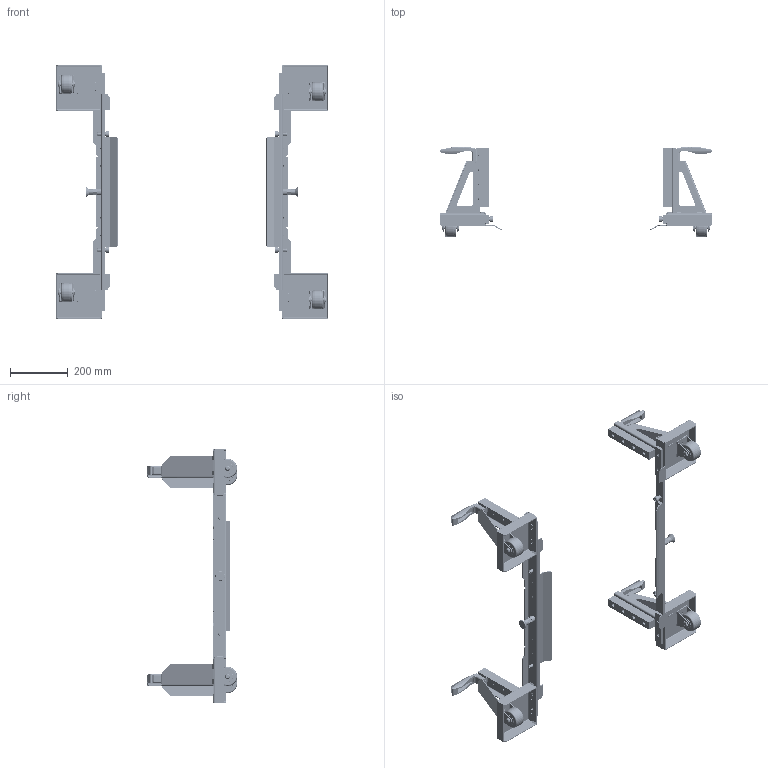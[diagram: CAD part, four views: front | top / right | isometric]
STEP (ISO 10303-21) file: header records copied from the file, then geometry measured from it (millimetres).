
FILE_DESCRIPTION((''),'2;1');
FILE_NAME('STABILIZER_KIT_PVT_220615_ASM','2023-04-04T14:55:39',('juliahuynh'),('Facebook, INC'),'CREO PARAMETRIC BY PTC INC, 2022024','CREO PARAMETRIC BY PTC INC, 2022024','');
FILE_SCHEMA(('AUTOMOTIVE_DESIGN { 1 0 10303 214 1 1 1 1 }'));
Products named in the file (32): C29483_1_PVT_220615; C29481_1_PVT_220615; C29486_1_PVT_220615; C29319_1_PVT_220615; C29485_ASM_1_PVT_220615_ASM; 478517__1_PVT_220615; 406087_1_PVT_220615; C29485_PNT_ASM_1_PVT_220615_ASM; C29490_1_PVT_220615; 23317080300_1_PVT_220615; C29492_1_PVT_220615; W-54260-RX-20MM_1_PVT_220615; RB-5426A_CAGE_1_PVT_220615; RB-5426A_ROLLER_1_PVT_220615; RB-5426A_SLEEVE_1_PVT_220615; RB-5426A_ASM_1_PVT_220615_ASM; 400116_ASM_1_PVT_220615_ASM; A-A5426A-1-859_1_PVT_220615; H5426_1_PVT_220615; 426259_ASM_1_PVT_220615_ASM; D0208106_1_PVT_220615; D0215291_1_PVT_220615; C29504_1_PVT_220615; 425888_1_PVT_220615; K0630-24308_1_PVT_220615; C29620_1_PVT_220615; K0237_12805_1_PVT_220615; LABEL_DO_NO_LIFT_1_PVT_220615; C31778_1_PVT_220615; C31779_1_PVT_220615; C29489_ASM_1_PVT_220615_ASM; STABILIZER_KIT_PVT_220615_ASM
Assembly tree (68 placements, depth 5):
  STABILIZER_KIT_PVT_220615_ASM
    C29489_ASM_1_PVT_220615_ASM  x2
      C29485_PNT_ASM_1_PVT_220615_ASM
        C29485_ASM_1_PVT_220615_ASM
          C29483_1_PVT_220615
          C29481_1_PVT_220615  x2
          C29486_1_PVT_220615  x2
          C29319_1_PVT_220615  x2
        478517__1_PVT_220615
        406087_1_PVT_220615
      C29490_1_PVT_220615
      23317080300_1_PVT_220615
      C29492_1_PVT_220615
      400116_ASM_1_PVT_220615_ASM
        W-54260-RX-20MM_1_PVT_220615
        RB-5426A_ASM_1_PVT_220615_ASM
          RB-5426A_CAGE_1_PVT_220615
          RB-5426A_ROLLER_1_PVT_220615  x8
          RB-5426A_SLEEVE_1_PVT_220615
      426259_ASM_1_PVT_220615_ASM
        A-A5426A-1-859_1_PVT_220615
        H5426_1_PVT_220615
      D0208106_1_PVT_220615
      D0215291_1_PVT_220615
      C29504_1_PVT_220615
      425888_1_PVT_220615
      K0630-24308_1_PVT_220615
      C29620_1_PVT_220615
      K0237_12805_1_PVT_220615
      LABEL_DO_NO_LIFT_1_PVT_220615
      C31778_1_PVT_220615
      C31779_1_PVT_220615
Bounding box: 940.76 x 310.93 x 875 mm (x, y, z)
Volume: 3349601.4 mm3; surface area: 1606057.7 mm2
Topology: 140 solids, 230 shells, 5196 faces, 13834 edges, 9260 vertices
Faces by surface type: plane 2442, cylinder 1760, cone 534, bspline 308, torus 140, sphere 8, extrusion 4
Entity records: 72121 total; most frequent: CARTESIAN_POINT 15043, DIRECTION 6822, ORIENTED_EDGE 5564, PRESENTATION_STYLE_ASSIGNMENT 4306, STYLED_ITEM 4306, CURVE_STYLE 3140, EDGE_CURVE 2864, AXIS2_PLACEMENT_3D 2561
